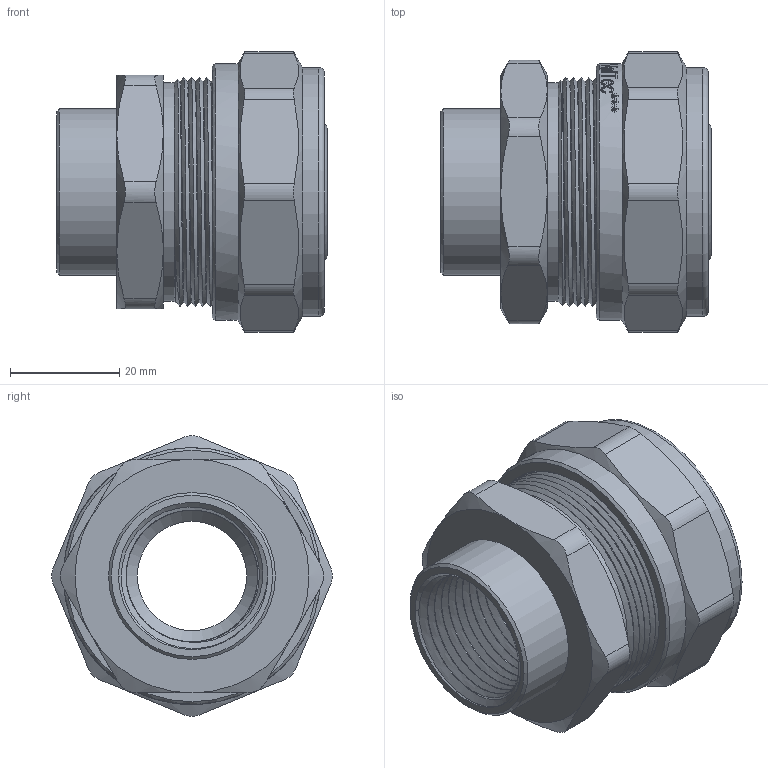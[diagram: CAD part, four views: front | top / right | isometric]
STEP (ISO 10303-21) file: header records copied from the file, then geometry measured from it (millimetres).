
FILE_DESCRIPTION(/* description */ (''),/* implementation_level */ '2;1');
FILE_NAME(/* name */ 'E:\Артём\00000\Работа удаленка\Обжимные фитинги\VTm.302.N.003205.stp',/* time_stamp */ '2020-06-08T15:27:53+03:00',/* author */ ('BeN_GaN'),/* organization */ (''),/* preprocessor_version */ 'ST-DEVELOPER v18',/* originating_system */ 'Autodesk Inventor 2020',/* authorisation */ '');
FILE_SCHEMA (('AUTOMOTIVE_DESIGN { 1 0 10303 214 3 1 1 }'));
Length unit declared in the file: millimetre
Products named in the file (1): VTm.302.N.003205
Bounding box: 49.5 x 51.3 x 51.3 mm (x, y, z)
Volume: 41387.4 mm3; surface area: 24519.9 mm2
Topology: 1 solids, 1 shells, 704 faces, 2004 edges, 1353 vertices
Faces by surface type: bspline 371, plane 174, cylinder 105, cone 30, torus 24
Full cylindrical faces by diameter (mm): 20 x1, 23.4 x2, 24.1 x9, 25.75 x5, 27.7 x11, 30.5 x1, 30.538 x4, 31.683 x5, 32.2 x1, 32.7 x1, 35.5 x1, 40 x1, 40.4 x4, 40.5 x1, 45.5 x1, 47 x1
Entity records: 32515 total; most frequent: CARTESIAN_POINT 16710, ORIENTED_EDGE 4008, DIRECTION 2070, EDGE_CURVE 2004, VERTEX_POINT 1353, B_SPLINE_CURVE_WITH_KNOTS 865, LINE 796, VECTOR 796
